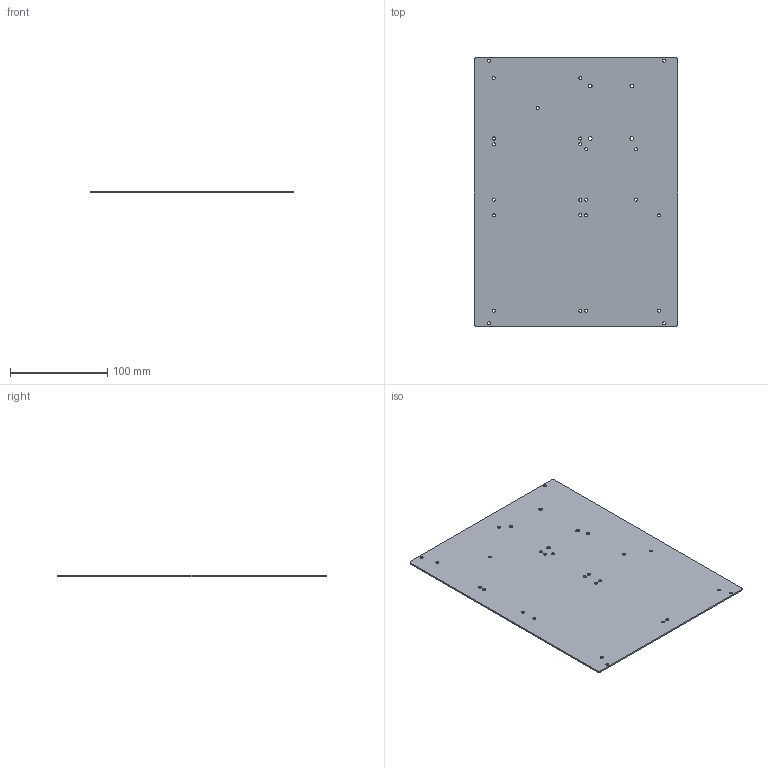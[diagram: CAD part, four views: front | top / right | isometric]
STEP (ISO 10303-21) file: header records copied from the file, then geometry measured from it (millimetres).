
FILE_DESCRIPTION(('FreeCAD Model'),'2;1');
FILE_NAME('Open CASCADE Shape Model','2021-12-18T23:54:18',('Author'),( ''),'Open CASCADE STEP processor 7.4','FreeCAD','Unknown');
FILE_SCHEMA(('AUTOMOTIVE_DESIGN { 1 0 10303 214 1 1 1 1 }'));
Length unit declared in the file: millimetre
Products named in the file (1): Fillet004
Bounding box: 209 x 276 x 1.5 mm (x, y, z)
Volume: 86143.9 mm3; surface area: 116760.7 mm2
Topology: 1 solids, 1 shells, 39 faces, 111 edges, 74 vertices
Faces by surface type: cylinder 33, plane 6
Full cylindrical faces by diameter (mm): 3.2 x25, 4 x4
Entity records: 2904 total; most frequent: DIRECTION 475, CARTESIAN_POINT 471, ORIENTED_EDGE 222, PCURVE 222, DEFINITIONAL_REPRESENTATION 222, LINE 201, VECTOR 201, CIRCLE 128
